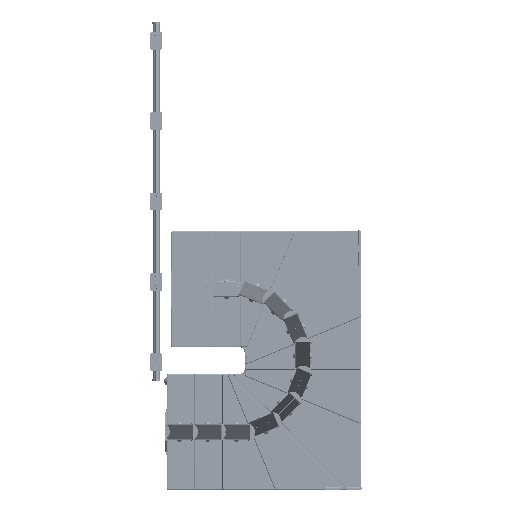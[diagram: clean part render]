
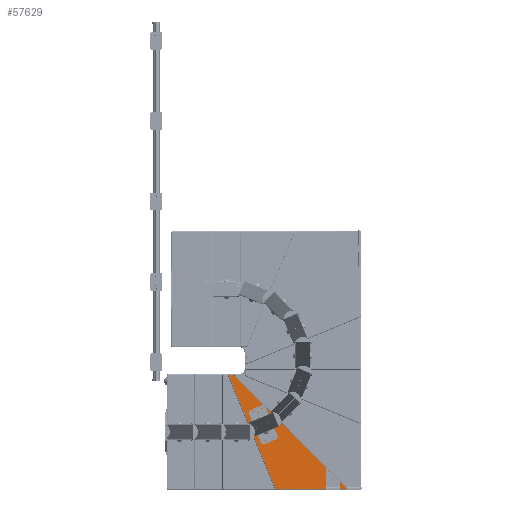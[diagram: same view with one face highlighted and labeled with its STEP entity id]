
A CAD part, front view. The second image highlights one B-rep face of the part: STEP entity #57629.
In plain terms, the highlighted planar face has unit normal (0, -1, 0) as drawn and (0, 1, 0) by its records, which use the part's own axes.
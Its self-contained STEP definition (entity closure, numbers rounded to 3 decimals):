
#363 = AXIS2_PLACEMENT_3D ( 'NONE', #59069, #6974, #43479 ) ;
#821 = ORIENTED_EDGE ( 'NONE', *, *, #45849, .T. ) ;
#1233 = CARTESIAN_POINT ( 'NONE',  ( -440.087, 19., -539.756 ) ) ;
#1286 = DIRECTION ( 'NONE',  ( 0., 0., 1. ) ) ;
#2544 = DIRECTION ( 'NONE',  ( 0.924, 0., 0.383 ) ) ;
#3663 = ORIENTED_EDGE ( 'NONE', *, *, #61003, .T. ) ;
#4250 = ORIENTED_EDGE ( 'NONE', *, *, #69866, .T. ) ;
#4622 = CIRCLE ( 'NONE', #11963, 5. ) ;
#6250 = DIRECTION ( 'NONE',  ( 0., 1., 0. ) ) ;
#6974 = DIRECTION ( 'NONE',  ( 0., 1., 0. ) ) ;
#7101 = ORIENTED_EDGE ( 'NONE', *, *, #68087, .T. ) ;
#9179 = VERTEX_POINT ( 'NONE', #23711 ) ;
#9463 = CIRCLE ( 'NONE', #22858, 5. ) ;
#9505 = DIRECTION ( 'NONE',  ( 0., 0., 1. ) ) ;
#9886 = DIRECTION ( 'NONE',  ( 0., 1., 0. ) ) ;
#10777 = VERTEX_POINT ( 'NONE', #49519 ) ;
#11053 = DIRECTION ( 'NONE',  ( 0.383, 0., 0.924 ) ) ;
#11085 = ORIENTED_EDGE ( 'NONE', *, *, #30705, .T. ) ;
#11400 = VECTOR ( 'NONE', #2544, 1000. ) ;
#11963 = AXIS2_PLACEMENT_3D ( 'NONE', #52662, #6250, #16966 ) ;
#12533 = ORIENTED_EDGE ( 'NONE', *, *, #50244, .T. ) ;
#14379 = LINE ( 'NONE', #25451, #11400 ) ;
#14420 = CARTESIAN_POINT ( 'NONE',  ( -442., 19., -540.137 ) ) ;
#14672 = EDGE_CURVE ( 'NONE', #9179, #27691, #39602, .T. ) ;
#15505 = PLANE ( 'NONE',  #74601 ) ;
#16021 = CARTESIAN_POINT ( 'NONE',  ( -442., 19., -535.137 ) ) ;
#16966 = DIRECTION ( 'NONE',  ( 0., 0., 1. ) ) ;
#17594 = CARTESIAN_POINT ( 'NONE',  ( -5., 19., -38.584 ) ) ;
#18861 = DIRECTION ( 'NONE',  ( 0., 1., 0. ) ) ;
#20460 = DIRECTION ( 'NONE',  ( 0., 1., 0. ) ) ;
#22145 = CARTESIAN_POINT ( 'NONE',  ( -11.913, 19., 330.33 ) ) ;
#22858 = AXIS2_PLACEMENT_3D ( 'NONE', #16021, #9886, #9505 ) ;
#23430 = CARTESIAN_POINT ( 'NONE',  ( -10., 19., -356.197 ) ) ;
#23667 = ORIENTED_EDGE ( 'NONE', *, *, #41954, .T. ) ;
#23711 = CARTESIAN_POINT ( 'NONE',  ( -446.619, 19., -533.223 ) ) ;
#25451 = CARTESIAN_POINT ( 'NONE',  ( -11.913, 19., 330.33 ) ) ;
#26609 = CARTESIAN_POINT ( 'NONE',  ( -10., 19., 330.71 ) ) ;
#26864 = ORIENTED_EDGE ( 'NONE', *, *, #37610, .T. ) ;
#26921 = CARTESIAN_POINT ( 'NONE',  ( -105.666, 19., 289.911 ) ) ;
#27691 = VERTEX_POINT ( 'NONE', #26921 ) ;
#28978 = VERTEX_POINT ( 'NONE', #67486 ) ;
#29812 = VERTEX_POINT ( 'NONE', #51233 ) ;
#30018 = EDGE_LOOP ( 'NONE', ( #821, #4250, #3663, #7101, #12533, #26864, #52932, #23667, #49679, #34353, #11085, #37456 ) ) ;
#30705 = EDGE_CURVE ( 'NONE', #47928, #33748, #32506, .T. ) ;
#31034 = VERTEX_POINT ( 'NONE', #68196 ) ;
#31043 = VERTEX_POINT ( 'NONE', #17594 ) ;
#32506 = CIRCLE ( 'NONE', #59183, 5. ) ;
#32878 = VERTEX_POINT ( 'NONE', #62574 ) ;
#33748 = VERTEX_POINT ( 'NONE', #44544 ) ;
#34353 = ORIENTED_EDGE ( 'NONE', *, *, #50785, .T. ) ;
#34767 = DIRECTION ( 'NONE',  ( 0., 0., 1. ) ) ;
#35518 = AXIS2_PLACEMENT_3D ( 'NONE', #54174, #18861, #53812 ) ;
#36722 = VECTOR ( 'NONE', #63632, 1000. ) ;
#37424 = DIRECTION ( 'NONE',  ( 0., 0., -1. ) ) ;
#37456 = ORIENTED_EDGE ( 'NONE', *, *, #42576, .T. ) ;
#37610 = EDGE_CURVE ( 'NONE', #39512, #9179, #64745, .T. ) ;
#39512 = VERTEX_POINT ( 'NONE', #14420 ) ;
#39602 = LINE ( 'NONE', #40007, #54347 ) ;
#40007 = CARTESIAN_POINT ( 'NONE',  ( -105.666, 19., 289.911 ) ) ;
#40402 = LINE ( 'NONE', #68554, #64706 ) ;
#41954 = EDGE_CURVE ( 'NONE', #27691, #32878, #53728, .T. ) ;
#42128 = AXIS2_PLACEMENT_3D ( 'NONE', #23430, #64453, #1286 ) ;
#42576 = EDGE_CURVE ( 'NONE', #33748, #10777, #40402, .T. ) ;
#42659 = LINE ( 'NONE', #60851, #50370 ) ;
#43479 = DIRECTION ( 'NONE',  ( 0., 0., 1. ) ) ;
#43509 = DIRECTION ( 'NONE',  ( 0., -1., 0. ) ) ;
#43662 = DIRECTION ( 'NONE',  ( 0., 0., 1. ) ) ;
#44544 = CARTESIAN_POINT ( 'NONE',  ( -5., 19., 325.71 ) ) ;
#45849 = EDGE_CURVE ( 'NONE', #10777, #31043, #66546, .T. ) ;
#47928 = VERTEX_POINT ( 'NONE', #26609 ) ;
#49337 = CARTESIAN_POINT ( 'NONE',  ( -442., 19., -535.137 ) ) ;
#49519 = CARTESIAN_POINT ( 'NONE',  ( -5., 19., 38.584 ) ) ;
#49679 = ORIENTED_EDGE ( 'NONE', *, *, #69025, .T. ) ;
#50244 = EDGE_CURVE ( 'NONE', #29812, #39512, #9463, .T. ) ;
#50370 = VECTOR ( 'NONE', #55171, 1000. ) ;
#50785 = EDGE_CURVE ( 'NONE', #56848, #47928, #4622, .T. ) ;
#51233 = CARTESIAN_POINT ( 'NONE',  ( -440.087, 19., -539.756 ) ) ;
#52174 = DIRECTION ( 'NONE',  ( 0., 0., -1. ) ) ;
#52662 = CARTESIAN_POINT ( 'NONE',  ( -10., 19., 325.71 ) ) ;
#52932 = ORIENTED_EDGE ( 'NONE', *, *, #14672, .T. ) ;
#53010 = DIRECTION ( 'NONE',  ( 0., 1., 0. ) ) ;
#53397 = LINE ( 'NONE', #1233, #36722 ) ;
#53415 = CARTESIAN_POINT ( 'NONE',  ( -10., 19., 325.71 ) ) ;
#53728 = CIRCLE ( 'NONE', #35518, 5. ) ;
#53812 = DIRECTION ( 'NONE',  ( 0., 0., 1. ) ) ;
#54170 = CARTESIAN_POINT ( 'NONE',  ( 26.8, 19., 0. ) ) ;
#54174 = CARTESIAN_POINT ( 'NONE',  ( -101.046, 19., 287.998 ) ) ;
#54347 = VECTOR ( 'NONE', #11053, 1000. ) ;
#55171 = DIRECTION ( 'NONE',  ( 0., 0., -1. ) ) ;
#56848 = VERTEX_POINT ( 'NONE', #22145 ) ;
#57629 = ADVANCED_FACE ( 'NONE', ( #72182 ), #15505, .T. ) ;
#59069 = CARTESIAN_POINT ( 'NONE',  ( -442., 19., -535.137 ) ) ;
#59183 = AXIS2_PLACEMENT_3D ( 'NONE', #53415, #53010, #34767 ) ;
#60851 = CARTESIAN_POINT ( 'NONE',  ( -5., 19., -356.197 ) ) ;
#61003 = EDGE_CURVE ( 'NONE', #28978, #31034, #68814, .T. ) ;
#62574 = CARTESIAN_POINT ( 'NONE',  ( -102.96, 19., 292.617 ) ) ;
#63632 = DIRECTION ( 'NONE',  ( -0.924, 0., -0.383 ) ) ;
#64453 = DIRECTION ( 'NONE',  ( 0., 1., 0. ) ) ;
#64706 = VECTOR ( 'NONE', #52174, 1000. ) ;
#64745 = CIRCLE ( 'NONE', #363, 5. ) ;
#66546 = CIRCLE ( 'NONE', #73874, 50. ) ;
#67486 = CARTESIAN_POINT ( 'NONE',  ( -5., 19., -356.197 ) ) ;
#68087 = EDGE_CURVE ( 'NONE', #31034, #29812, #53397, .T. ) ;
#68196 = CARTESIAN_POINT ( 'NONE',  ( -8.087, 19., -360.816 ) ) ;
#68554 = CARTESIAN_POINT ( 'NONE',  ( -5., 19., -356.197 ) ) ;
#68814 = CIRCLE ( 'NONE', #42128, 5. ) ;
#69025 = EDGE_CURVE ( 'NONE', #32878, #56848, #14379, .T. ) ;
#69866 = EDGE_CURVE ( 'NONE', #31043, #28978, #42659, .T. ) ;
#72182 = FACE_OUTER_BOUND ( 'NONE', #30018, .T. ) ;
#73874 = AXIS2_PLACEMENT_3D ( 'NONE', #54170, #43509, #37424 ) ;
#74601 = AXIS2_PLACEMENT_3D ( 'NONE', #49337, #20460, #43662 ) ;
